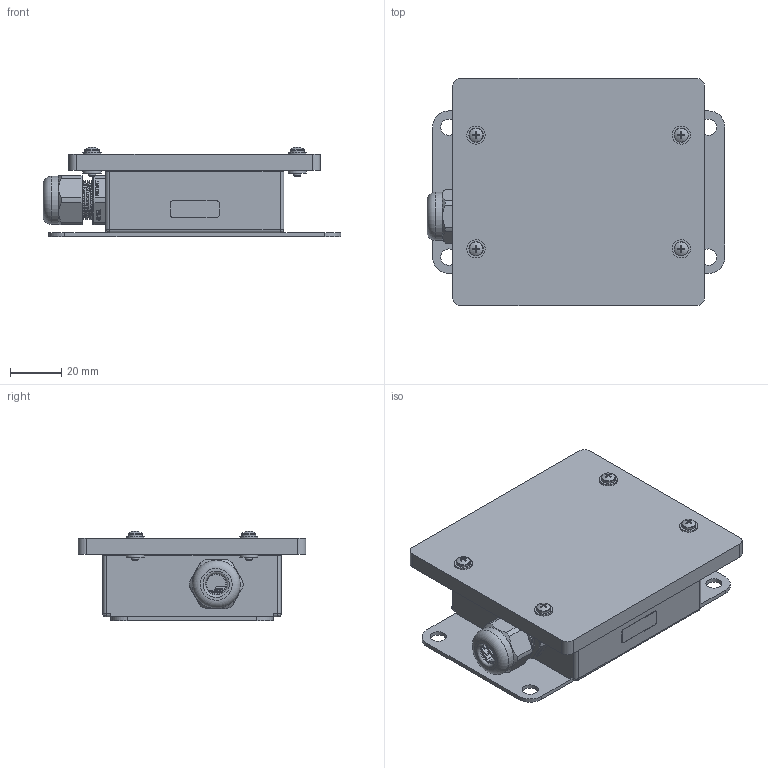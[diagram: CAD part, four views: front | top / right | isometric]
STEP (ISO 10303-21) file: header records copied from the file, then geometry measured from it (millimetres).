
FILE_DESCRIPTION(/* description */ ('Valve Controller, NFC, Clear Cover, PG9 Strain Relief'),/* implementation_level */ '2;1');
FILE_NAME(/* name */ 'C:\Users\azhao\Documents\19003\MECHANICAL\STP\AX020710-PG9_.stp',/* time_stamp */ '2020-10-22T20:02:35-04:00',/* author */ ('azhao'),/* organization */ (''),/* preprocessor_version */ 'ST-DEVELOPER v17',/* originating_system */ 'Autodesk Inventor 2018',/* authorisation */ '');
FILE_SCHEMA (('AUTOMOTIVE_DESIGN { 1 0 10303 214 3 1 1 }'));
Products named in the file (3): AX020710-PG9; AX020710-PG9_Substitute_2; MPL-HFI-RSD1R01
Assembly tree (2 placements, depth 2):
  AX020710-PG9
    AX020710-PG9_Substitute_2
    MPL-HFI-RSD1R01
Bounding box: 116.46 x 88.9 x 35.06 mm (x, y, z)
Volume: 97426.9 mm3; surface area: 75824.8 mm2
Topology: 6 solids, 6 shells, 7964 faces, 21308 edges, 13871 vertices
Faces by surface type: plane 5759, cylinder 1148, bspline 742, torus 154, sphere 102, cone 59
Full cylindrical faces by diameter (mm): 0.25 x1, 0.381 x327, 0.508 x26, 0.711 x6, 0.762 x136, 0.889 x8, 1.016 x45, 1.397 x3, 1.524 x29, 2.667 x8, 2.845 x8, 3.048 x4, 3.505 x4, 3.962 x12, 4.04 x2, 4.3 x1, 5.41 x4, 5.563 x4, 6.35 x4, 6.858 x4, 7.112 x4, 7.137 x4, 7.62 x1, 8.331 x1, 10 x2, 10.973 x1, 11.227 x1, 13.36 x4, 13.691 x1, 13.818 x1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
Entity records: 270577 total; most frequent: CARTESIAN_POINT 67456, ORIENTED_EDGE 42426, DIRECTION 36478, EDGE_CURVE 21213, LINE 15942, VECTOR 15942, VERTEX_POINT 13868, AXIS2_PLACEMENT_3D 10268
